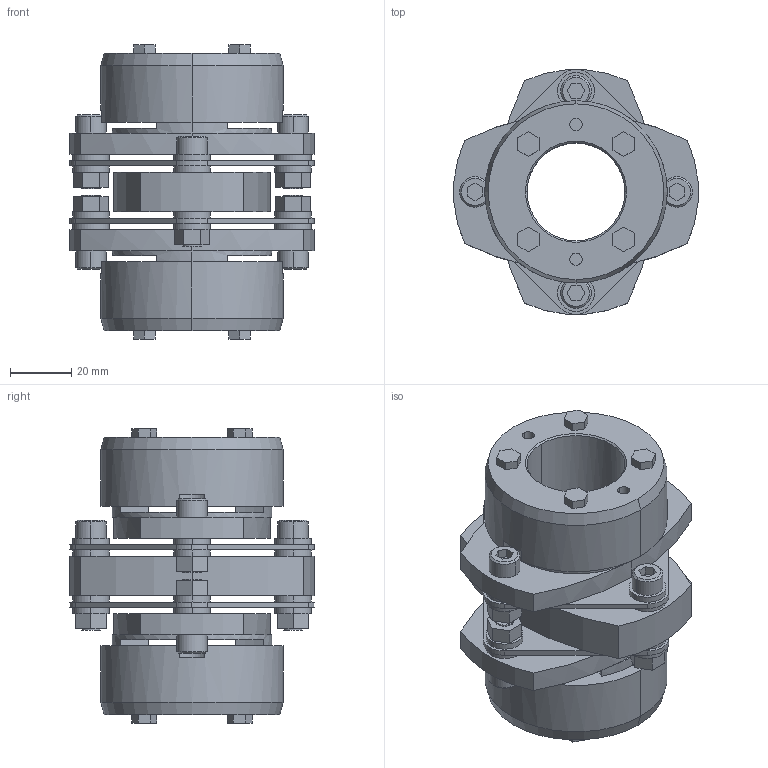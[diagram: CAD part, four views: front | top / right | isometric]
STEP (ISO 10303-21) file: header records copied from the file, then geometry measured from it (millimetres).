
FILE_DESCRIPTION((''),'2;1');
FILE_NAME('LCD-80T7-32×32.stp','2011-09-15T14:32:15',(''),(''),'AutoCAD STEP 2000i','AutoCAD 2000i',', , ');
FILE_SCHEMA(('CONFIG_CONTROL_DESIGN'));
Length unit declared in the file: millimetre
Products named in the file (12): LCD-80T7-32×32; 忣兜1; LC80T7-T032-1; LC80T7-T032; LC80T7-T030; LC80T7-T028; LC80T7-T024; LC80T7-T022; LC80T7-T019; LC80T7-T017-1; LC80T7-T017; LCD80-ITA
Assembly tree (11 placements, depth 2):
  LCD-80T7-32×32
    忣兜1
    LC80T7-T032-1
    LC80T7-T032
    LC80T7-T030
    LC80T7-T028
    LC80T7-T024
    LC80T7-T022
    LC80T7-T019
    LC80T7-T017-1
    LC80T7-T017
    LCD80-ITA
Bounding box: 80 x 79.95 x 96.1 mm (x, y, z)
Volume: 180875 mm3; surface area: 58750.5 mm2
Topology: 1 solids, 1 shells, 348 faces, 856 edges, 560 vertices
Faces by surface type: plane 200, cylinder 124, cone 24
Entity records: 10617 total; most frequent: DIRECTION 1888, CARTESIAN_POINT 1776, ORIENTED_EDGE 1712, EDGE_CURVE 856, AXIS2_PLACEMENT_3D 672, VERTEX_POINT 560, VECTOR 544, LINE 544
